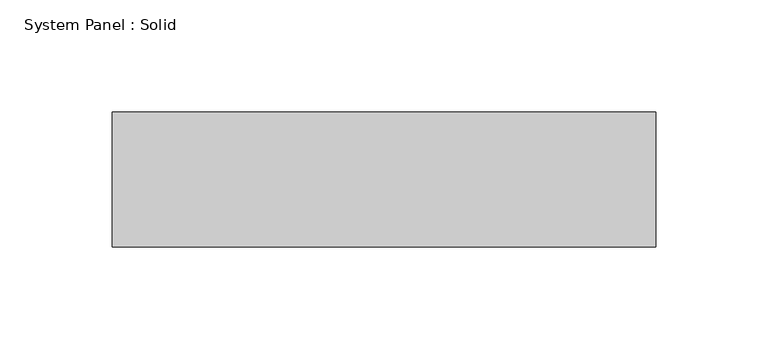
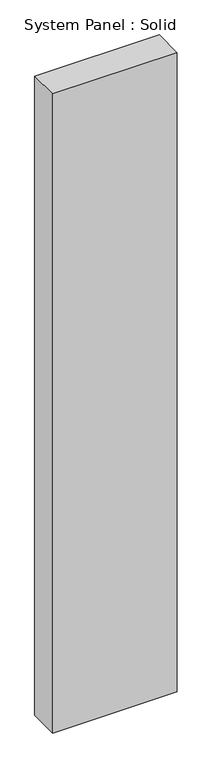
"""IFC4 building model written with IfcOpenShell, lengths in millimetres: plate geometry, System Panel : Solid."""

from ifc_helpers import new_model, si_unit, origin, origin_with_axes, place, context, project, spatial, polyline, outline, extrude, source, transform, mapped, element, save


def system_panel_solid_89a25cb9(model_context):
    return source(origin(), model_context, "Body", "SweptSolid", [
        extrude(outline(polyline([(120.8787097, -49.5), (-120.8787097, -49.5), (-120.8787097, 10.5), (120.8787097, 10.5), (120.8787097, -49.5)])), origin_with_axes(), (0.0, 0.0, 1.0), 1310.0),
    ])


if __name__ == "__main__":
    model = new_model("IFC4")
    model_context = context("Model", 3, world=origin())
    ifc_project = project(units=[si_unit("LENGTHUNIT", "METRE", prefix="MILLI")], contexts=[model_context])
    site = spatial("IfcSite", under=ifc_project)
    building = spatial("IfcBuilding", under=site)
    placement = place(None, origin())
    system_panel_solid_shape = system_panel_solid_89a25cb9(model_context)
    element("IfcPlate", 1, ObjectType="System Panel : Solid", at=placement, inside=building, context=model_context, shape_type="MappedRepresentation", body=[
        mapped(system_panel_solid_shape, transform((0.0, 0.0, 0.0), x_axis=(1.0, 0.0, 0.0), y_axis=(0.0, 1.0, 0.0), z_axis=(0.0, 0.0, 1.0))),
    ])
    save(model, "model.ifc")
